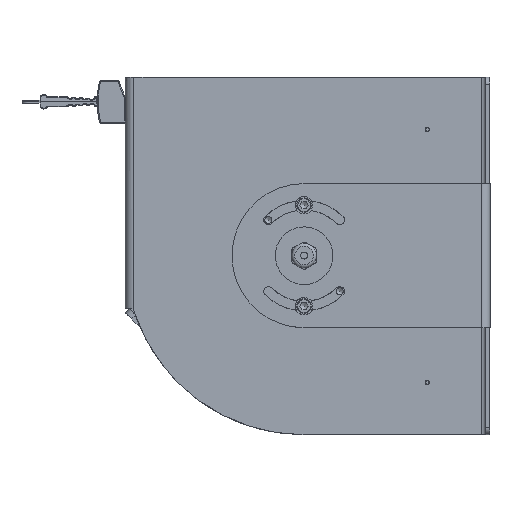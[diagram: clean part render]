
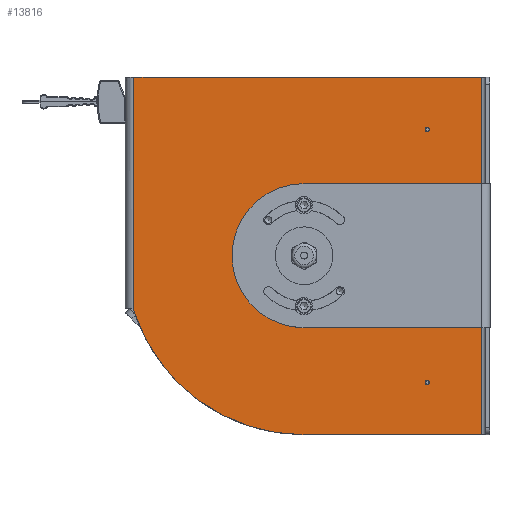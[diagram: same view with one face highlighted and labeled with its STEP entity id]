
A CAD part, top view. The second image highlights one B-rep face of the part: STEP entity #13816.
In plain terms, the highlighted planar face has unit normal (0, 0, 1).
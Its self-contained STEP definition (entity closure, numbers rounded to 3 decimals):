
#3289=CARTESIAN_POINT('',(85.551,-89.311,-1.5));
#3290=VERTEX_POINT('',#3289);
#3291=CARTESIAN_POINT('',(85.551,-87.811,-1.5));
#3292=DIRECTION('',(0.0,0.0,-1.0));
#3293=DIRECTION('',(0.0,1.0,0.0));
#3294=AXIS2_PLACEMENT_3D('',#3291,#3292,#3293);
#3295=CIRCLE('',#3294,1.5);
#3296=EDGE_CURVE('',#3290,#3290,#3295,.T.);
#12838=CARTESIAN_POINT('',(123.,124.,-1.5));
#12839=VERTEX_POINT('',#12838);
#12847=CARTESIAN_POINT('',(123.,-124.,-1.5));
#12848=VERTEX_POINT('',#12847);
#12849=CARTESIAN_POINT('',(123.,124.,-1.5));
#12850=DIRECTION('',(0.0,-1.0,0.0));
#12851=VECTOR('',#12850,248.0);
#12852=LINE('',#12849,#12851);
#12853=EDGE_CURVE('',#12839,#12848,#12852,.T.);
#13078=CARTESIAN_POINT('',(-118.,124.,-1.5));
#13079=VERTEX_POINT('',#13078);
#13087=CARTESIAN_POINT('',(-118.,124.,-1.5));
#13088=DIRECTION('',(1.0,0.0,0.0));
#13089=VECTOR('',#13088,241.0);
#13090=LINE('',#13087,#13089);
#13091=EDGE_CURVE('',#13079,#12839,#13090,.T.);
#13113=CARTESIAN_POINT('',(0.,-124.,-1.5));
#13114=VERTEX_POINT('',#13113);
#13127=CARTESIAN_POINT('',(123.,-124.,-1.5));
#13128=DIRECTION('',(-1.0,0.0,0.0));
#13129=VECTOR('',#13128,123.0);
#13130=LINE('',#13127,#13129);
#13131=EDGE_CURVE('',#12848,#13114,#13130,.T.);
#13206=CARTESIAN_POINT('',(-118.,-38.105,-1.5));
#13207=VERTEX_POINT('',#13206);
#13215=CARTESIAN_POINT('',(-118.,-38.105,-1.5));
#13216=DIRECTION('',(0.0,1.0,0.0));
#13217=VECTOR('',#13216,162.105);
#13218=LINE('',#13215,#13217);
#13219=EDGE_CURVE('',#13207,#13079,#13218,.T.);
#13773=CARTESIAN_POINT('',(1.,0.,-1.5));
#13774=DIRECTION('',(0.0,0.0,1.0));
#13775=DIRECTION('',(0.0,1.0,0.0));
#13776=AXIS2_PLACEMENT_3D('',#13773,#13774,#13775);
#13777=PLANE('',#13776);
#13778=ORIENTED_EDGE('',*,*,#13219,.F.);
#13779=CARTESIAN_POINT('',(0.,0.,-1.5));
#13780=DIRECTION('',(0.,0.,-1.0));
#13781=DIRECTION('',(-0.707,-0.707,0.));
#13782=AXIS2_PLACEMENT_3D('',#13779,#13780,#13781);
#13783=CIRCLE('',#13782,124.);
#13784=EDGE_CURVE('',#13114,#13207,#13783,.T.);
#13785=ORIENTED_EDGE('',*,*,#13784,.F.);
#13786=ORIENTED_EDGE('',*,*,#13131,.F.);
#13787=ORIENTED_EDGE('',*,*,#12853,.F.);
#13788=ORIENTED_EDGE('',*,*,#13091,.F.);
#13789=EDGE_LOOP('',(#13778,#13785,#13786,#13787,#13788));
#13790=FACE_OUTER_BOUND('',#13789,.T.);
#13791=ORIENTED_EDGE('',*,*,#3296,.T.);
#13792=EDGE_LOOP('',(#13791));
#13793=FACE_BOUND('',#13792,.T.);
#13794=CARTESIAN_POINT('',(85.551,86.311,-1.5));
#13795=VERTEX_POINT('',#13794);
#13796=CARTESIAN_POINT('',(85.551,87.811,-1.5));
#13797=DIRECTION('',(0.0,0.0,-1.0));
#13798=DIRECTION('',(0.0,1.0,0.0));
#13799=AXIS2_PLACEMENT_3D('',#13796,#13797,#13798);
#13800=CIRCLE('',#13799,1.5);
#13801=EDGE_CURVE('',#13795,#13795,#13800,.T.);
#13802=ORIENTED_EDGE('',*,*,#13801,.T.);
#13803=EDGE_LOOP('',(#13802));
#13804=FACE_BOUND('',#13803,.T.);
#13805=CARTESIAN_POINT('',(45.0,0.,-1.5));
#13806=VERTEX_POINT('',#13805);
#13807=CARTESIAN_POINT('',(0.,0.,-1.5));
#13808=DIRECTION('',(0.0,0.0,-1.0));
#13809=DIRECTION('',(-1.0,0.0,0.0));
#13810=AXIS2_PLACEMENT_3D('',#13807,#13808,#13809);
#13811=CIRCLE('',#13810,45.0);
#13812=EDGE_CURVE('',#13806,#13806,#13811,.T.);
#13813=ORIENTED_EDGE('',*,*,#13812,.T.);
#13814=EDGE_LOOP('',(#13813));
#13815=FACE_BOUND('',#13814,.T.);
#13816=ADVANCED_FACE('',(#13790,#13793,#13804,#13815),#13777,.T.);
